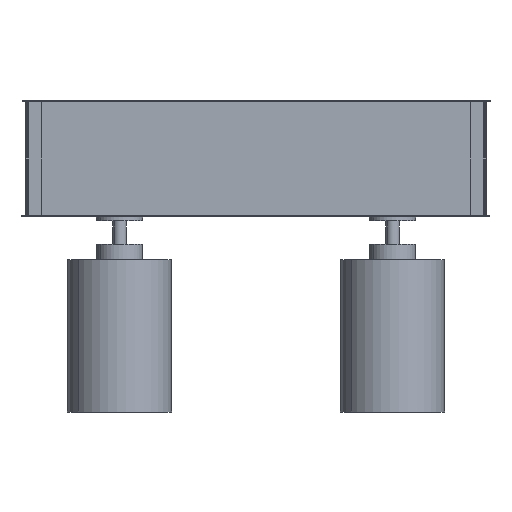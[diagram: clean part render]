
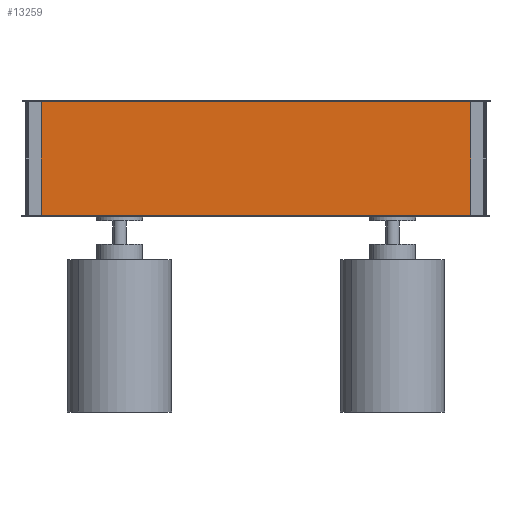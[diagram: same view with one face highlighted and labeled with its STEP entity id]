
A CAD part, left-side view. The second image highlights one B-rep face of the part: STEP entity #13259.
In plain terms, the highlighted planar face has unit normal (-1, 0, 0).
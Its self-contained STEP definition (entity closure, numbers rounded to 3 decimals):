
#584 = VERTEX_POINT ( 'NONE', #8534 ) ;
#722 = CARTESIAN_POINT ( 'NONE',  ( -2456.956, -652.426, 2002.5 ) ) ;
#746 = CARTESIAN_POINT ( 'NONE',  ( -2456.956, -652.426, 2292.5 ) ) ;
#1171 = VERTEX_POINT ( 'NONE', #2060 ) ;
#1317 = ORIENTED_EDGE ( 'NONE', *, *, #4952, .T. ) ;
#2060 = CARTESIAN_POINT ( 'NONE',  ( -2456.956, 513.574, 2292.5 ) ) ;
#2177 = LINE ( 'NONE', #746, #6368 ) ;
#2706 = LINE ( 'NONE', #722, #2956 ) ;
#2707 = DIRECTION ( 'NONE',  ( 0., 0., -1. ) ) ;
#2956 = VECTOR ( 'NONE', #4967, 1000. ) ;
#3159 = EDGE_CURVE ( 'NONE', #584, #1171, #2177, .T. ) ;
#3657 = VERTEX_POINT ( 'NONE', #20819 ) ;
#3851 = VERTEX_POINT ( 'NONE', #15075 ) ;
#3919 = DIRECTION ( 'NONE',  ( 0., 1., 0. ) ) ;
#4952 = EDGE_CURVE ( 'NONE', #1171, #3657, #12822, .T. ) ;
#4967 = DIRECTION ( 'NONE',  ( 0., -1., 0. ) ) ;
#5154 = DIRECTION ( 'NONE',  ( 0., -1., 0. ) ) ;
#5918 = ORIENTED_EDGE ( 'NONE', *, *, #19373, .T. ) ;
#6368 = VECTOR ( 'NONE', #3919, 1000. ) ;
#7007 = PLANE ( 'NONE',  #16920 ) ;
#8534 = CARTESIAN_POINT ( 'NONE',  ( -2456.956, -652.426, 2292.5 ) ) ;
#9455 = VECTOR ( 'NONE', #2707, 1000. ) ;
#9538 = VECTOR ( 'NONE', #19522, 1000. ) ;
#11496 = CARTESIAN_POINT ( 'NONE',  ( -2456.956, -652.426, 2292.5 ) ) ;
#12016 = DIRECTION ( 'NONE',  ( 1., 0., 0. ) ) ;
#12822 = LINE ( 'NONE', #16404, #9455 ) ;
#13259 = ADVANCED_FACE ( 'NONE', ( #20467 ), #7007, .F. ) ;
#13538 = CARTESIAN_POINT ( 'NONE',  ( -2456.956, -69.426, 2147.5 ) ) ;
#14649 = ORIENTED_EDGE ( 'NONE', *, *, #18092, .T. ) ;
#15075 = CARTESIAN_POINT ( 'NONE',  ( -2456.956, -652.426, 2002.5 ) ) ;
#16404 = CARTESIAN_POINT ( 'NONE',  ( -2456.956, 513.574, 2292.5 ) ) ;
#16427 = EDGE_LOOP ( 'NONE', ( #1317, #5918, #14649, #19673 ) ) ;
#16920 = AXIS2_PLACEMENT_3D ( 'NONE', #13538, #12016, #5154 ) ;
#18092 = EDGE_CURVE ( 'NONE', #3851, #584, #18520, .T. ) ;
#18520 = LINE ( 'NONE', #11496, #9538 ) ;
#19373 = EDGE_CURVE ( 'NONE', #3657, #3851, #2706, .T. ) ;
#19522 = DIRECTION ( 'NONE',  ( 0., 0., 1. ) ) ;
#19673 = ORIENTED_EDGE ( 'NONE', *, *, #3159, .T. ) ;
#20467 = FACE_OUTER_BOUND ( 'NONE', #16427, .T. ) ;
#20819 = CARTESIAN_POINT ( 'NONE',  ( -2456.956, 513.574, 2002.5 ) ) ;
